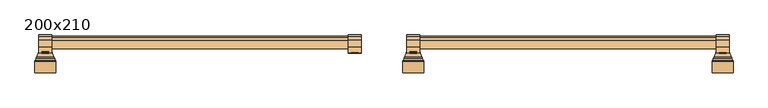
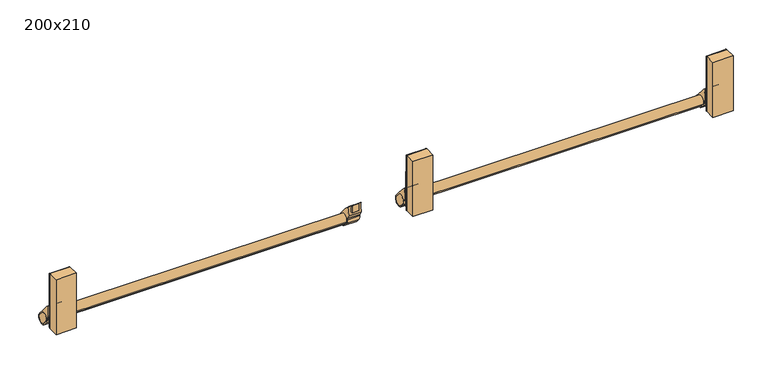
"""IFC4 building model written with IfcOpenShell, lengths in millimetres: door geometry, Porta Corta Fogo 2 Folhas : 200x210."""

from ifc_helpers import new_model, si_unit, point, frame, frame_2d, origin, place, context, project, spatial, polyline, circle_curve, ellipse_curve, trimmed, segment, composite_curve, outline, extrude, source, transform, mapped, element, save
from ifc_brep_helpers import plane_surface, cylinder_surface, revolved_surface, advanced_brep


def door_200x210_7cfe1a8b(model_context):
    return source(origin(), model_context, "Body", "SolidModel", [
        extrude(outline(composite_curve([segment(polyline([(39.4796414, 1074.8677377), (49.2193164, 1063.4599013)]), True, "CONTINUOUS"), segment(trimmed(circle_curve(frame_2d((40.0930473, 1055.6681613)), 12.0), [point((49.2193164, 1063.4599013))], [point((30.9667783, 1047.8764213))], False, "CARTESIAN"), True, "CONTINUOUS"), segment(polyline([(30.9667783, 1047.8764213), (21.2271032, 1059.2842576)]), True, "CONTINUOUS"), segment(trimmed(circle_curve(frame_2d((30.3533723, 1067.0759977)), 12.0), [point((21.2271032, 1059.2842576))], [point((39.4796414, 1074.8677377))], False, "CARTESIAN"), True, "CONTINUOUS")], self_intersect=False)), frame((60.5260959, 0.0, 0.0), z_axis=(1.0, 0.0, 0.0), x_axis=(0.0, 1.0, 0.0)), (0.0, 0.0, 1.0), 853.9575839),
        extrude(outline(composite_curve([segment(polyline([(10.1140216, 1093.2705185), (6.0, 1093.2705185), (6.0, 1113.7606116)]), True, "CONTINUOUS"), segment(trimmed(circle_curve(frame_2d((-43.4975797, 1040.4615919)), 88.4463492), [point((6.0, 1113.7606116))], [point((7.7856127, 1112.5226137))], False, "CARTESIAN"), True, "CONTINUOUS"), segment(trimmed(circle_curve(frame_2d((-15.0, 1100.0)), 26.0), [point((7.7856127, 1112.5226137))], [point((10.1140216, 1093.2705185))], False, "CARTESIAN"), True, "CONTINUOUS")], self_intersect=False)), frame((68.5007769, 0.0, 0.0), z_axis=(1.0, 0.0, 0.0), x_axis=(0.0, 1.0, 0.0)), (0.0, 0.0, 1.0), 17.9972202),
        extrude(outline(composite_curve([segment(trimmed(circle_curve(frame_2d((-43.4975797, 1040.4615919)), 88.4463492), [point((7.7856127, 1112.5226137))], [point((23.7678521, 1097.8908385))], False, "CARTESIAN"), True, "CONTINUOUS"), segment(polyline([(23.7678521, 1097.8908385), (41.7612086, 1076.8156727), (51.5008837, 1065.4078363)]), True, "CONTINUOUS"), segment(trimmed(circle_curve(frame_2d((40.0930473, 1055.6681613)), 15.0), [point((51.5008837, 1065.4078363))], [point((28.685211, 1045.9284863))], False, "CARTESIAN"), True, "CONTINUOUS"), segment(polyline([(28.685211, 1045.9284863), (18.9455359, 1057.3363226)]), True, "CONTINUOUS"), segment(trimmed(circle_curve(frame_2d((30.3533723, 1067.0759977)), 15.0), [point((18.9455359, 1057.3363226))], [point((15.637094, 1069.9796424))], False, "CARTESIAN"), True, "CONTINUOUS"), segment(trimmed(circle_curve(frame_2d((10.4264254, 1071.222644)), 5.3568759), [point((15.637094, 1069.9796424))], [point((14.8140734, 1074.2958614))], True, "CARTESIAN"), True, "CONTINUOUS"), segment(polyline([(14.8140734, 1074.2958614), (6.7684645, 1085.782618)]), True, "CONTINUOUS"), segment(trimmed(circle_curve(frame_2d((-15.0, 1100.0)), 26.0), [point((6.7684645, 1085.782618))], [point((7.7856127, 1112.5226137))], True, "CARTESIAN"), True, "CONTINUOUS")], self_intersect=False)), frame((60.5260959, 0.0, 0.0), z_axis=(1.0, 0.0, 0.0), x_axis=(0.0, 1.0, 0.0)), (0.0, 0.0, 1.0), 33.9521859),
        advanced_brep(
        [(50.898224, -12.2720654, 1066.751652), (104.101776, -12.2720654, 1066.751652), (104.6176732, -13.5344669, 1065.3823268), (105.0, -15.0, 1065.0), (50.0, -15.0, 1065.0), (50.3823268, -13.5344669, 1065.3823268), (52.787417, -7.6492062, 1074.8346794), (102.212583, -7.6492062, 1074.8346794), (53.8700503, -5.0, 1077.0871215), (101.1299497, -5.0, 1077.0871215), (60.0, 10.0, 1100.0), (54.5485718, -3.3396566, 1122.1141672), (100.4514282, -3.3396566, 1122.1141672), (95.0, 10.0, 1100.0), (67.5, 5.0, 1115.0), (67.5, 10.0, 1100.0), (67.5, 5.0, 1085.0), (87.5, 5.0, 1085.0), (87.5, 10.0, 1100.0), (87.5, 5.0, 1115.0), (53.0412037, -7.0281894, 1128.7172501), (101.9587963, -7.0281894, 1128.7172501), (51.0094072, -12.0, 1221.0), (103.9905928, -12.0, 1221.0), (50.3823268, -13.5344669, 1223.6176732), (50.0, -15.0, 1224.0), (105.0, -15.0, 1224.0), (104.6176732, -13.5344669, 1223.6176732), (105.0, -45.0, 1224.0), (50.0, -45.0, 1224.0), (50.0, -45.0, 1065.0), (105.0, -45.0, 1065.0)],
        [
            (0, 1),
            (1, 2, ellipse_curve(frame((105.2165828, -15.0, 1068.0), z_axis=(-0.9256856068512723, -0.37829374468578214, 0.0), x_axis=(0.3782937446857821, -0.9256856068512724, 0.0)), 3.2408411, 3.0)),
            (2, 3, ellipse_curve(frame((102.0, -15.0, 1068.0), z_axis=(-0.7071067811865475, 0.0, -0.7071067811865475), x_axis=(0.7071067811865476, 0.0, -0.7071067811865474)), 4.2426407, 3.0)),
            (3, 4),
            (4, 5, ellipse_curve(frame((53.0, -15.0, 1068.0), z_axis=(0.7071067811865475, 0.0, -0.7071067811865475), x_axis=(0.7071067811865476, 0.0, 0.7071067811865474)), 4.2426407, 3.0)),
            (5, 0, ellipse_curve(frame((49.7834172, -15.0, 1068.0), z_axis=(0.925685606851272, -0.3782937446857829, 0.0), x_axis=(0.3782937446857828, 0.925685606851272, 0.0)), 3.2408411, 3.0)),
            (0, 6),
            (6, 7),
            (7, 1),
            (6, 8, ellipse_curve(frame((54.6028184, -3.2069149, 1072.2940365), z_axis=(-0.925685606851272, 0.3782937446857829, 0.0), x_axis=(-0.3782937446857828, -0.925685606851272, 0.0)), 5.5283361, 5.1175012)),
            (8, 9),
            (9, 7, ellipse_curve(frame((100.3971816, -3.2069149, 1072.2940365), z_axis=(0.9256856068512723, 0.37829374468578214, 0.0), x_axis=(-0.3782937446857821, 0.9256856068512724, 0.0)), 5.5283361, 5.1175012)),
            (8, 10, ellipse_curve(frame((49.7834172, -15.0, 1100.0), z_axis=(0.925685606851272, -0.3782937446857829, 0.0), x_axis=(0.3782937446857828, 0.925685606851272, 0.0)), 27.0070095, 25.0)),
            (10, 11, ellipse_curve(frame((49.7834172, -15.0, 1100.0), z_axis=(0.925685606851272, -0.3782937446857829, 0.0), x_axis=(0.3782937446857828, 0.925685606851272, 0.0)), 27.0070095, 25.0)),
            (11, 12),
            (12, 13, ellipse_curve(frame((105.2165828, -15.0, 1100.0), z_axis=(-0.9256856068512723, -0.37829374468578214, 0.0), x_axis=(0.3782937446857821, -0.9256856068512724, 0.0)), 27.0070095, 25.0)),
            (13, 9, ellipse_curve(frame((105.2165828, -15.0, 1100.0), z_axis=(-0.9256856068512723, -0.37829374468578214, 0.0), x_axis=(0.3782937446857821, -0.9256856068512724, 0.0)), 27.0070095, 25.0)),
            (14, 15, circle_curve(frame((67.5, -15.0, 1100.0), z_axis=(-1.0, 0.0, 0.0), x_axis=(0.0, -1.0, 0.0)), 25.0)),
            (15, 16, circle_curve(frame((67.5, -15.0, 1100.0), z_axis=(-1.0, 0.0, 0.0), x_axis=(0.0, -1.0, 0.0)), 25.0)),
            (16, 17),
            (17, 18, circle_curve(frame((87.5, -15.0, 1100.0), z_axis=(1.0, 0.0, 0.0), x_axis=(0.0, -1.0, 0.0)), 25.0)),
            (18, 19, circle_curve(frame((87.5, -15.0, 1100.0), z_axis=(1.0, 0.0, 0.0), x_axis=(0.0, -1.0, 0.0)), 25.0)),
            (19, 14),
            (11, 20, ellipse_curve(frame((56.5484771, 1.554116, 1129.179629), z_axis=(-0.925685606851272, 0.3782937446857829, 0.0), x_axis=(-0.3782937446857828, -0.925685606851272, 0.0)), 9.2847419, 8.5947519)),
            (20, 21),
            (21, 12, ellipse_curve(frame((98.4515229, 1.554116, 1129.179629), z_axis=(0.9256856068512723, 0.37829374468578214, 0.0), x_axis=(-0.3782937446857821, 0.9256856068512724, 0.0)), 9.2847419, 8.5947519)),
            (20, 22),
            (22, 23),
            (23, 21),
            (22, 24, ellipse_curve(frame((49.7834172, -15.0, 1221.0), z_axis=(0.925685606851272, -0.3782937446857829, 0.0), x_axis=(0.3782937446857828, 0.925685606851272, 0.0)), 3.2408411, 3.0)),
            (24, 25, ellipse_curve(frame((53.0, -15.0, 1221.0), z_axis=(0.7071067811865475, 0.0, 0.7071067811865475), x_axis=(0.7071067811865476, 0.0, -0.7071067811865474)), 4.2426407, 3.0)),
            (25, 26),
            (26, 27, ellipse_curve(frame((102.0, -15.0, 1221.0), z_axis=(-0.7071067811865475, 0.0, 0.7071067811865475), x_axis=(0.7071067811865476, 0.0, 0.7071067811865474)), 4.2426407, 3.0)),
            (27, 23, ellipse_curve(frame((105.2165828, -15.0, 1221.0), z_axis=(-0.9256856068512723, -0.37829374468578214, 0.0), x_axis=(0.3782937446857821, -0.9256856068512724, 0.0)), 3.2408411, 3.0)),
            (24, 5),
            (4, 25),
            (27, 2),
            (26, 3),
            (14, 16),
            (19, 17),
            (28, 29),
            (29, 30),
            (30, 31),
            (31, 28),
            (28, 26),
            (25, 29),
            (4, 30),
            (3, 31),
        ],
        [
            cylinder_surface(frame((50.0, -15.0, 1068.0), z_axis=(1.0, 0.0, 0.0), x_axis=(0.0, -1.0, 0.0)), 3.0),
            plane_surface(frame((105.0, -12.2720654, 1066.751652), z_axis=(0.0, 0.8680586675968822, -0.496461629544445), x_axis=(-1.0, 0.0, 0.0))),
            revolved_surface(polyline([(52.5114834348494, -8.3244161, 1072.2940365), (102.48851656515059, -8.3244161, 1072.2940365)]), (50.0, -3.2069149, 1072.2940365), (-1.0, 0.0, 0.0)),
            cylinder_surface(frame((50.0, -15.0, 1100.0), z_axis=(1.0, 0.0, 0.0), x_axis=(0.0, -1.0, 0.0)), 25.0),
            revolved_surface(polyline([(53.03611731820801, -7.0406359, 1129.179629), (101.96388268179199, -7.0406359, 1129.179629)]), (50.0, 1.554116, 1129.179629), (-1.0, 0.0, 0.0)),
            plane_surface(frame((105.0, -7.0281894, 1128.7172501), z_axis=(0.0, 0.9985518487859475, 0.05379781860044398), x_axis=(-1.0, 0.0, 0.0))),
            cylinder_surface(frame((50.0, -15.0, 1221.0), z_axis=(1.0, 0.0, 0.0), x_axis=(0.0, -1.0, 0.0)), 3.0),
            cylinder_surface(frame((53.0, -15.0, 1059.1367409), z_axis=(0.0, 0.0, -1.0), x_axis=(1.0, 0.0, 0.0)), 3.0),
            plane_surface(frame((50.3823268, -13.5344669, 1234.0272103), z_axis=(-0.925685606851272, 0.3782937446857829, 0.0), x_axis=(0.0, 0.0, -1.0))),
            plane_surface(frame((95.0, 10.0, 1234.0272103), z_axis=(0.9256856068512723, 0.37829374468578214, 0.0), x_axis=(0.0, 0.0, -1.0))),
            cylinder_surface(frame((102.0, -15.0, 1100.0), z_axis=(0.0, 0.0, -1.0), x_axis=(1.0, 0.0, 0.0)), 3.0),
            plane_surface(frame((67.5, 10.0, 1146.08191), z_axis=(1.0, 0.0, 0.0), x_axis=(0.0, 0.0, -1.0))),
            plane_surface(frame((67.5, 5.0, 1146.08191), z_axis=(0.0, 1.0, 0.0), x_axis=(0.0, 0.0, -1.0))),
            plane_surface(frame((87.5, 5.0, 1146.08191), z_axis=(-1.0, 0.0, 0.0), x_axis=(0.0, 0.0, -1.0))),
            plane_surface(frame((-167.5, -45.0, 1224.0), z_axis=(0.0, -1.0, 0.0), x_axis=(-1.0, 0.0, 0.0))),
            plane_surface(frame((105.0, -45.0, 1224.0), z_axis=(0.0, 0.0, 1.0), x_axis=(0.0, 1.0, 0.0))),
            plane_surface(frame((50.0, -45.0, 1224.0), z_axis=(-1.0, 0.0, 0.0), x_axis=(0.0, 1.0, 0.0))),
            plane_surface(frame((50.0, -45.0, 1065.0), z_axis=(0.0, 0.0, -1.0), x_axis=(0.0, 1.0, 0.0))),
            plane_surface(frame((105.0, -45.0, 1065.0), z_axis=(1.0, 0.0, 0.0), x_axis=(0.0, 1.0, 0.0))),
        ],
        [
            (0, [[1, 2, 3, 4, 5, 6]]),
            (1, [[-1, 7, 8, 9]]),
            (2, [[-8, 10, 11, 12]]),
            (3, [[-11, 13, 14, 15, 16, 17], [18, 19, 20, 21, 22, 23]]),
            (4, [[-15, 24, 25, 26]]),
            (5, [[-25, 27, 28, 29]]),
            (6, [[-28, 30, 31, 32, 33, 34]]),
            (7, [[35, -5, 36, -31]]),
            (8, [[-35, -30, -27, -24, -14, -13, -10, -7, -6]]),
            (9, [[37, -2, -9, -12, -17, -16, -26, -29, -34]]),
            (10, [[-37, -33, 38, -3]]),
            (11, [[39, -19, -18]]),
            (12, [[-39, -23, 40, -20]]),
            (13, [[-40, -22, -21]]),
            (14, [[41, 42, 43, 44]]),
            (15, [[-41, 45, -32, 46]]),
            (16, [[-42, -46, -36, 47]]),
            (17, [[-43, -47, -4, 48]]),
            (18, [[-44, -48, -38, -45]]),
        ],
    ),
        advanced_brep(
        [(906.5007574, 7.7856127, 1112.5226137), (906.5007574, 6.0, 1113.7606116), (906.5007574, 6.0, 1093.2705185), (906.5007574, 10.1140216, 1093.2705185), (888.4977277, 10.1140216, 1093.2705185), (888.4977277, 6.0, 1093.2705185), (888.4977277, 6.0, 1113.7606116), (888.4977277, 7.7856127, 1112.5226137), (914.4836798, 7.7856127, 1112.5226137), (914.4836798, 6.7684645, 1085.782618), (914.4836798, 14.8140734, 1074.2958614), (914.4836798, 15.637094, 1069.9796424), (914.4836798, 18.9455359, 1057.3363226), (914.4836798, 28.685211, 1045.9284863), (914.4836798, 51.5008837, 1065.4078363), (914.4836798, 41.7612086, 1076.8156727), (914.4836798, 23.7678521, 1097.8908385), (880.5260959, 7.7856127, 1112.5226137), (880.5260959, 23.7678521, 1097.8908385), (880.5260959, 41.7612086, 1076.8156727), (880.5260959, 51.5008837, 1065.4078363), (880.5260959, 28.685211, 1045.9284863), (880.5260959, 18.9455359, 1057.3363226), (880.5260959, 15.637094, 1069.9796424), (880.5260959, 14.8140734, 1074.2958614), (880.5260959, 6.7684645, 1085.782618)],
        [
            (0, 1, circle_curve(frame((906.5007574, -43.4975797, 1040.4615919), z_axis=(1.0, 0.0, 0.0), x_axis=(0.0, 1.0, 0.0)), 88.4463492)),
            (1, 2),
            (2, 3),
            (3, 0, circle_curve(frame((906.5007574, -15.0, 1100.0), z_axis=(1.0, 0.0, 0.0), x_axis=(0.0, -1.0, 0.0)), 26.0)),
            (4, 5),
            (5, 6),
            (6, 7, circle_curve(frame((888.4977277, -43.4975797, 1040.4615919), z_axis=(-1.0, 0.0, 0.0), x_axis=(0.0, 1.0, 0.0)), 88.4463492)),
            (7, 4, circle_curve(frame((888.4977277, -15.0, 1100.0), z_axis=(-1.0, 0.0, 0.0), x_axis=(0.0, -1.0, 0.0)), 26.0)),
            (0, 7),
            (6, 1),
            (5, 2),
            (4, 3),
            (8, 9, circle_curve(frame((914.4836798, -15.0, 1100.0), z_axis=(-1.0, 0.0, 0.0), x_axis=(0.0, -1.0, 0.0)), 26.0)),
            (9, 10),
            (10, 11, circle_curve(frame((914.4836798, 10.4264254, 1071.222644), z_axis=(-1.0, 0.0, 0.0), x_axis=(0.0, -1.0, 0.0)), 5.3568759)),
            (11, 12, circle_curve(frame((914.4836798, 30.3533723, 1067.0759977), z_axis=(1.0, 0.0, 0.0), x_axis=(0.0, -1.0, 0.0)), 15.0)),
            (12, 13),
            (13, 14, circle_curve(frame((914.4836798, 40.0930473, 1055.6681613), z_axis=(1.0, 0.0, 0.0), x_axis=(0.0, -1.0, 0.0)), 15.0)),
            (14, 15),
            (15, 16),
            (16, 8, circle_curve(frame((914.4836798, -43.4975797, 1040.4615919), z_axis=(1.0, 0.0, 0.0), x_axis=(0.0, -1.0, 0.0)), 88.4463492)),
            (17, 18, circle_curve(frame((880.5260959, -43.4975797, 1040.4615919), z_axis=(-1.0, 0.0, 0.0), x_axis=(0.0, -1.0, 0.0)), 88.4463492)),
            (18, 19),
            (19, 20),
            (20, 21, circle_curve(frame((880.5260959, 40.0930473, 1055.6681613), z_axis=(-1.0, 0.0, 0.0), x_axis=(0.0, -1.0, 0.0)), 15.0)),
            (21, 22),
            (22, 23, circle_curve(frame((880.5260959, 30.3533723, 1067.0759977), z_axis=(-1.0, 0.0, 0.0), x_axis=(0.0, -1.0, 0.0)), 15.0)),
            (23, 24, circle_curve(frame((880.5260959, 10.4264254, 1071.222644), z_axis=(1.0, 0.0, 0.0), x_axis=(0.0, -1.0, 0.0)), 5.3568759)),
            (24, 25),
            (25, 17, circle_curve(frame((880.5260959, -15.0, 1100.0), z_axis=(1.0, 0.0, 0.0), x_axis=(0.0, -1.0, 0.0)), 26.0)),
            (8, 0),
            (7, 17),
            (25, 9),
            (24, 10),
            (23, 11),
            (22, 12),
            (21, 13),
            (20, 14),
            (19, 15),
            (18, 16),
        ],
        [
            plane_surface(frame((906.5007574, 11.0, 1100.0), z_axis=(1.0, 0.0, 0.0), x_axis=(0.0, 0.0, 1.0))),
            plane_surface(frame((888.4977277, 11.0, 1100.0), z_axis=(-1.0, 0.0, 0.0), x_axis=(0.0, 0.0, -1.0))),
            cylinder_surface(frame((888.4977277, -43.4975797, 1040.4615919), z_axis=(1.0, 0.0, 0.0), x_axis=(0.0, 1.0, 0.0)), 88.4463492),
            plane_surface(frame((906.5007574, 6.0, 1113.7606116), z_axis=(0.0, -1.0, 0.0), x_axis=(-1.0, 0.0, 0.0))),
            plane_surface(frame((906.5007574, 6.0, 1093.2705185), z_axis=(0.0, 0.0, -1.0), x_axis=(-1.0, 0.0, 0.0))),
            plane_surface(frame((914.4836798, -41.0, 1100.0), z_axis=(1.0, 0.0, 0.0), x_axis=(0.0, 0.0, 1.0))),
            plane_surface(frame((880.5260959, -41.0, 1100.0), z_axis=(-1.0, 0.0, 0.0), x_axis=(0.0, 0.0, -1.0))),
            revolved_surface(polyline([(880.5260959, -41.0, 1100.0), (914.4836798, -41.0, 1100.0)]), (880.5260959, -15.0, 1100.0), (-1.0, 0.0, 0.0)),
            plane_surface(frame((914.4836798, 6.7684645, 1085.782618), z_axis=(0.0, -0.8190684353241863, -0.5736958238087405), x_axis=(-1.0, 0.0, 0.0))),
            revolved_surface(polyline([(880.5260959, 5.069549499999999, 1071.222644), (914.4836798, 5.069549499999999, 1071.222644)]), (880.5260959, 10.4264254, 1071.222644), (-1.0, 0.0, 0.0)),
            cylinder_surface(frame((880.5260959, 30.3533723, 1067.0759977), z_axis=(1.0, 0.0, 0.0), x_axis=(0.0, -1.0, 0.0)), 15.0),
            plane_surface(frame((914.4836798, 18.9455359, 1057.3363226), z_axis=(0.0, -0.7605224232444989, -0.6493116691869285), x_axis=(-1.0, 0.0, 0.0))),
            cylinder_surface(frame((880.5260959, 40.0930473, 1055.6681613), z_axis=(1.0, 0.0, 0.0), x_axis=(0.0, -1.0, 0.0)), 15.0),
            plane_surface(frame((914.4836798, 51.5008837, 1065.4078363), z_axis=(0.0, 0.7605224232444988, 0.6493116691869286), x_axis=(-1.0, 0.0, 0.0))),
            plane_surface(frame((914.4836798, 41.7612086, 1076.8156727), z_axis=(0.0, 0.7605224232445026, 0.6493116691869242), x_axis=(-1.0, 0.0, 0.0))),
            cylinder_surface(frame((880.5260959, -43.4975797, 1040.4615919), z_axis=(1.0, 0.0, 0.0), x_axis=(0.0, -1.0, 0.0)), 88.4463492),
        ],
        [
            (0, [[1, 2, 3, 4]]),
            (1, [[5, 6, 7, 8]]),
            (2, [[-1, 9, -7, 10]]),
            (3, [[-2, -10, -6, 11]]),
            (4, [[-3, -11, -5, 12]]),
            (5, [[13, 14, 15, 16, 17, 18, 19, 20, 21]]),
            (6, [[22, 23, 24, 25, 26, 27, 28, 29, 30]]),
            (7, [[-13, 31, -4, -12, -8, 32, -30, 33]]),
            (8, [[-14, -33, -29, 34]]),
            (9, [[-15, -34, -28, 35]]),
            (10, [[-16, -35, -27, 36]]),
            (11, [[-17, -36, -26, 37]]),
            (12, [[-18, -37, -25, 38]]),
            (13, [[-19, -38, -24, 39]]),
            (14, [[-20, -39, -23, 40]]),
            (15, [[-21, -40, -22, -32, -9, -31]]),
        ],
    ),
        advanced_brep(
        [(870.898224, -12.2720654, 1066.751652), (924.101776, -12.2720654, 1066.751652), (924.6176732, -13.5344669, 1065.3823268), (925.0, -15.0, 1065.0), (870.0, -15.0, 1065.0), (870.3823268, -13.5344669, 1065.3823268), (872.787417, -7.6492062, 1074.8346794), (922.212583, -7.6492062, 1074.8346794), (873.8700503, -5.0, 1077.0871215), (921.1299497, -5.0, 1077.0871215), (880.0, 10.0, 1100.0), (874.5485718, -3.3396566, 1122.1141672), (920.4514282, -3.3396566, 1122.1141672), (915.0, 10.0, 1100.0), (887.5, 5.0, 1115.0), (887.5, 10.0, 1100.0), (887.5, 5.0, 1085.0), (907.5, 5.0, 1085.0), (907.5, 10.0, 1100.0), (907.5, 5.0, 1115.0), (873.0412037, -7.0281894, 1128.7172501), (921.9587963, -7.0281894, 1128.7172501), (871.0094072, -12.0, 1221.0), (923.9905928, -12.0, 1221.0), (870.3823268, -13.5344669, 1223.6176732), (870.0, -15.0, 1224.0), (925.0, -15.0, 1224.0), (924.6176732, -13.5344669, 1223.6176732), (925.0, -45.0, 1224.0), (870.0, -45.0, 1224.0), (870.0, -45.0, 1065.0), (925.0, -45.0, 1065.0)],
        [
            (0, 1),
            (1, 2, ellipse_curve(frame((925.2165828, -15.0, 1068.0), z_axis=(-0.9256856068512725, -0.37829374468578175, 0.0), x_axis=(0.37829374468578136, -0.9256856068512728, 0.0)), 3.2408411, 3.0)),
            (2, 3, ellipse_curve(frame((922.0, -15.0, 1068.0), z_axis=(-0.7071067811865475, 0.0, -0.7071067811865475), x_axis=(0.7071067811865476, 0.0, -0.7071067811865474)), 4.2426407, 3.0)),
            (3, 4),
            (4, 5, ellipse_curve(frame((873.0, -15.0, 1068.0), z_axis=(0.7071067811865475, 0.0, -0.7071067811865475), x_axis=(0.7071067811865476, 0.0, 0.7071067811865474)), 4.2426407, 3.0)),
            (5, 0, ellipse_curve(frame((869.7834172, -15.0, 1068.0), z_axis=(0.9256856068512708, -0.3782937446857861, 0.0), x_axis=(0.3782937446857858, 0.9256856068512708, 0.0)), 3.2408411, 3.0)),
            (0, 6),
            (6, 7),
            (7, 1),
            (6, 8, ellipse_curve(frame((874.6028184, -3.2069149, 1072.2940365), z_axis=(-0.9256856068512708, 0.3782937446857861, 0.0), x_axis=(-0.3782937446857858, -0.9256856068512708, 0.0)), 5.5283361, 5.1175012)),
            (8, 9),
            (9, 7, ellipse_curve(frame((920.3971816, -3.2069149, 1072.2940365), z_axis=(0.9256856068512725, 0.37829374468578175, 0.0), x_axis=(-0.37829374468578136, 0.9256856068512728, 0.0)), 5.5283361, 5.1175012)),
            (8, 10, ellipse_curve(frame((869.7834172, -15.0, 1100.0), z_axis=(0.9256856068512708, -0.3782937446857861, 0.0), x_axis=(0.3782937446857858, 0.9256856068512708, 0.0)), 27.0070095, 25.0)),
            (10, 11, ellipse_curve(frame((869.7834172, -15.0, 1100.0), z_axis=(0.9256856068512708, -0.3782937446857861, 0.0), x_axis=(0.3782937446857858, 0.9256856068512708, 0.0)), 27.0070095, 25.0)),
            (11, 12),
            (12, 13, ellipse_curve(frame((925.2165828, -15.0, 1100.0), z_axis=(-0.9256856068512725, -0.37829374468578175, 0.0), x_axis=(0.37829374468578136, -0.9256856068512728, 0.0)), 27.0070095, 25.0)),
            (13, 9, ellipse_curve(frame((925.2165828, -15.0, 1100.0), z_axis=(-0.9256856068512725, -0.37829374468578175, 0.0), x_axis=(0.37829374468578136, -0.9256856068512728, 0.0)), 27.0070095, 25.0)),
            (14, 15, circle_curve(frame((887.5, -15.0, 1100.0), z_axis=(-1.0, 0.0, 0.0), x_axis=(0.0, -1.0, 0.0)), 25.0)),
            (15, 16, circle_curve(frame((887.5, -15.0, 1100.0), z_axis=(-1.0, 0.0, 0.0), x_axis=(0.0, -1.0, 0.0)), 25.0)),
            (16, 17),
            (17, 18, circle_curve(frame((907.5, -15.0, 1100.0), z_axis=(1.0, 0.0, 0.0), x_axis=(0.0, -1.0, 0.0)), 25.0)),
            (18, 19, circle_curve(frame((907.5, -15.0, 1100.0), z_axis=(1.0, 0.0, 0.0), x_axis=(0.0, -1.0, 0.0)), 25.0)),
            (19, 14),
            (11, 20, ellipse_curve(frame((876.5484771, 1.554116, 1129.179629), z_axis=(-0.9256856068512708, 0.3782937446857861, 0.0), x_axis=(-0.3782937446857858, -0.9256856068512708, 0.0)), 9.2847419, 8.5947519)),
            (20, 21),
            (21, 12, ellipse_curve(frame((918.4515229, 1.554116, 1129.179629), z_axis=(0.9256856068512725, 0.37829374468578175, 0.0), x_axis=(-0.37829374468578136, 0.9256856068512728, 0.0)), 9.2847419, 8.5947519)),
            (20, 22),
            (22, 23),
            (23, 21),
            (22, 24, ellipse_curve(frame((869.7834172, -15.0, 1221.0), z_axis=(0.9256856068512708, -0.3782937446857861, 0.0), x_axis=(0.3782937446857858, 0.9256856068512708, 0.0)), 3.2408411, 3.0)),
            (24, 25, ellipse_curve(frame((873.0, -15.0, 1221.0), z_axis=(0.7071067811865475, 0.0, 0.7071067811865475), x_axis=(0.7071067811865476, 0.0, -0.7071067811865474)), 4.2426407, 3.0)),
            (25, 26),
            (26, 27, ellipse_curve(frame((922.0, -15.0, 1221.0), z_axis=(-0.7071067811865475, 0.0, 0.7071067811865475), x_axis=(0.7071067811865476, 0.0, 0.7071067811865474)), 4.2426407, 3.0)),
            (27, 23, ellipse_curve(frame((925.2165828, -15.0, 1221.0), z_axis=(-0.9256856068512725, -0.37829374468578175, 0.0), x_axis=(0.37829374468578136, -0.9256856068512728, 0.0)), 3.2408411, 3.0)),
            (24, 5),
            (4, 25),
            (27, 2),
            (26, 3),
            (28, 29),
            (29, 30),
            (30, 31),
            (31, 28),
            (28, 26),
            (25, 29),
            (4, 30),
            (3, 31),
            (14, 16),
            (19, 17),
        ],
        [
            cylinder_surface(frame((870.0, -15.0, 1068.0), z_axis=(1.0, 0.0, 0.0), x_axis=(0.0, -1.0, 0.0)), 3.0),
            plane_surface(frame((925.0, -12.2720654, 1066.751652), z_axis=(0.0, 0.8680586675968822, -0.496461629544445), x_axis=(-1.0, 0.0, 0.0))),
            revolved_surface(polyline([(872.5114834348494, -8.3244161, 1072.2940365), (922.4885165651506, -8.3244161, 1072.2940365)]), (870.0, -3.2069149, 1072.2940365), (-1.0, 0.0, 0.0)),
            cylinder_surface(frame((870.0, -15.0, 1100.0), z_axis=(1.0, 0.0, 0.0), x_axis=(0.0, -1.0, 0.0)), 25.0),
            revolved_surface(polyline([(873.036117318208, -7.0406359, 1129.179629), (921.9638826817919, -7.0406359, 1129.179629)]), (870.0, 1.554116, 1129.179629), (-1.0, 0.0, 0.0)),
            plane_surface(frame((925.0, -7.0281894, 1128.7172501), z_axis=(0.0, 0.9985518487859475, 0.05379781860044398), x_axis=(-1.0, 0.0, 0.0))),
            cylinder_surface(frame((870.0, -15.0, 1221.0), z_axis=(1.0, 0.0, 0.0), x_axis=(0.0, -1.0, 0.0)), 3.0),
            cylinder_surface(frame((873.0, -15.0, 1059.1367409), z_axis=(0.0, 0.0, -1.0), x_axis=(1.0, 0.0, 0.0)), 3.0),
            plane_surface(frame((870.3823268, -13.5344669, 1234.0272103), z_axis=(-0.9256856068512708, 0.3782937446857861, 0.0), x_axis=(0.0, 0.0, -1.0))),
            plane_surface(frame((915.0, 10.0, 1234.0272103), z_axis=(0.9256856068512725, 0.37829374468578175, 0.0), x_axis=(0.0, 0.0, -1.0))),
            cylinder_surface(frame((922.0, -15.0, 1100.0), z_axis=(0.0, 0.0, -1.0), x_axis=(1.0, 0.0, 0.0)), 3.0),
            plane_surface(frame((925.0, -45.0, 1224.0), z_axis=(0.0, -1.0, 0.0), x_axis=(-1.0, 0.0, 0.0))),
            plane_surface(frame((925.0, -45.0, 1224.0), z_axis=(0.0, 0.0, 1.0), x_axis=(0.0, 1.0, 0.0))),
            plane_surface(frame((870.0, -45.0, 1224.0), z_axis=(-1.0, 0.0, 0.0), x_axis=(0.0, 1.0, 0.0))),
            plane_surface(frame((870.0, -45.0, 1065.0), z_axis=(0.0, 0.0, -1.0), x_axis=(0.0, 1.0, 0.0))),
            plane_surface(frame((925.0, -45.0, 1065.0), z_axis=(1.0, 0.0, 0.0), x_axis=(0.0, 1.0, 0.0))),
            plane_surface(frame((887.5, 10.0, 1135.4621864), z_axis=(1.0, 0.0, 0.0), x_axis=(0.0, 0.0, -1.0))),
            plane_surface(frame((887.5, 5.0, 1135.4621864), z_axis=(0.0, 1.0, 0.0), x_axis=(0.0, 0.0, -1.0))),
            plane_surface(frame((907.5, 5.0, 1135.4621864), z_axis=(-1.0, 0.0, 0.0), x_axis=(0.0, 0.0, -1.0))),
        ],
        [
            (0, [[1, 2, 3, 4, 5, 6]]),
            (1, [[-1, 7, 8, 9]]),
            (2, [[-8, 10, 11, 12]]),
            (3, [[-11, 13, 14, 15, 16, 17], [18, 19, 20, 21, 22, 23]]),
            (4, [[-15, 24, 25, 26]]),
            (5, [[-25, 27, 28, 29]]),
            (6, [[-28, 30, 31, 32, 33, 34]]),
            (7, [[35, -5, 36, -31]]),
            (8, [[-35, -30, -27, -24, -14, -13, -10, -7, -6]]),
            (9, [[37, -2, -9, -12, -17, -16, -26, -29, -34]]),
            (10, [[-37, -33, 38, -3]]),
            (11, [[39, 40, 41, 42]]),
            (12, [[-39, 43, -32, 44]]),
            (13, [[-40, -44, -36, 45]]),
            (14, [[-41, -45, -4, 46]]),
            (15, [[-42, -46, -38, -43]]),
            (16, [[47, -19, -18]]),
            (17, [[-47, -23, 48, -20]]),
            (18, [[-48, -22, -21]]),
        ],
    ),
        extrude(outline(composite_curve([segment(polyline([(39.4796414, 1074.8677377), (49.2193164, 1063.4599013)]), True, "CONTINUOUS"), segment(trimmed(circle_curve(frame_2d((40.0930473, 1055.6681613)), 12.0), [point((49.2193164, 1063.4599013))], [point((30.9667783, 1047.8764213))], False, "CARTESIAN"), True, "CONTINUOUS"), segment(polyline([(30.9667783, 1047.8764213), (21.2271032, 1059.2842576)]), True, "CONTINUOUS"), segment(trimmed(circle_curve(frame_2d((30.3533723, 1067.0759977)), 12.0), [point((21.2271032, 1059.2842576))], [point((39.4796414, 1074.8677377))], False, "CARTESIAN"), True, "CONTINUOUS")], self_intersect=False)), frame((-914.4739041, 0.0, 0.0), z_axis=(1.0, 0.0, 0.0), x_axis=(0.0, 1.0, 0.0)), (0.0, 0.0, 1.0), 853.9575839),
        extrude(outline(composite_curve([segment(polyline([(10.1140216, 1093.2705185), (6.0, 1093.2705185), (6.0, 1113.7606116)]), True, "CONTINUOUS"), segment(trimmed(circle_curve(frame_2d((-43.4975797, 1040.4615919)), 88.4463492), [point((6.0, 1113.7606116))], [point((7.7856127, 1112.5226137))], False, "CARTESIAN"), True, "CONTINUOUS"), segment(trimmed(circle_curve(frame_2d((-15.0, 1100.0)), 26.0), [point((7.7856127, 1112.5226137))], [point((10.1140216, 1093.2705185))], False, "CARTESIAN"), True, "CONTINUOUS")], self_intersect=False)), frame((-906.4992231, 0.0, 0.0), z_axis=(1.0, 0.0, 0.0), x_axis=(0.0, 1.0, 0.0)), (0.0, 0.0, 1.0), 17.9972202),
        extrude(outline(composite_curve([segment(trimmed(circle_curve(frame_2d((-43.4975797, 1040.4615919)), 88.4463492), [point((7.7856127, 1112.5226137))], [point((23.7678521, 1097.8908385))], False, "CARTESIAN"), True, "CONTINUOUS"), segment(polyline([(23.7678521, 1097.8908385), (41.7612086, 1076.8156727), (51.5008837, 1065.4078363)]), True, "CONTINUOUS"), segment(trimmed(circle_curve(frame_2d((40.0930473, 1055.6681613)), 15.0), [point((51.5008837, 1065.4078363))], [point((28.685211, 1045.9284863))], False, "CARTESIAN"), True, "CONTINUOUS"), segment(polyline([(28.685211, 1045.9284863), (18.9455359, 1057.3363226)]), True, "CONTINUOUS"), segment(trimmed(circle_curve(frame_2d((30.3533723, 1067.0759977)), 15.0), [point((18.9455359, 1057.3363226))], [point((15.637094, 1069.9796424))], False, "CARTESIAN"), True, "CONTINUOUS"), segment(trimmed(circle_curve(frame_2d((10.4264254, 1071.222644)), 5.3568759), [point((15.637094, 1069.9796424))], [point((14.8140734, 1074.2958614))], True, "CARTESIAN"), True, "CONTINUOUS"), segment(polyline([(14.8140734, 1074.2958614), (6.7684645, 1085.782618)]), True, "CONTINUOUS"), segment(trimmed(circle_curve(frame_2d((-15.0, 1100.0)), 26.0), [point((6.7684645, 1085.782618))], [point((7.7856127, 1112.5226137))], True, "CARTESIAN"), True, "CONTINUOUS")], self_intersect=False)), frame((-914.4739041, 0.0, 0.0), z_axis=(1.0, 0.0, 0.0), x_axis=(0.0, 1.0, 0.0)), (0.0, 0.0, 1.0), 33.9521859),
        advanced_brep(
        [(-924.101776, -12.2720654, 1066.751652), (-870.898224, -12.2720654, 1066.751652), (-870.3823268, -13.5344669, 1065.3823268), (-870.0, -15.0, 1065.0), (-925.0, -15.0, 1065.0), (-924.6176732, -13.5344669, 1065.3823268), (-922.212583, -7.6492062, 1074.8346794), (-872.787417, -7.6492062, 1074.8346794), (-921.1299497, -5.0, 1077.0871215), (-873.8700503, -5.0, 1077.0871215), (-915.0, 10.0, 1100.0), (-920.4514282, -3.3396566, 1122.1141672), (-874.5485718, -3.3396566, 1122.1141672), (-880.0, 10.0, 1100.0), (-907.5, 5.0, 1115.0), (-907.5, 10.0, 1100.0), (-907.5, 5.0, 1085.0), (-887.5, 5.0, 1085.0), (-887.5, 10.0, 1100.0), (-887.5, 5.0, 1115.0), (-921.9587963, -7.0281894, 1128.7172501), (-873.0412037, -7.0281894, 1128.7172501), (-923.9905928, -12.0, 1221.0), (-871.0094072, -12.0, 1221.0), (-924.6176732, -13.5344669, 1223.6176732), (-925.0, -15.0, 1224.0), (-870.0, -15.0, 1224.0), (-870.3823268, -13.5344669, 1223.6176732), (-870.0, -45.0, 1224.0), (-925.0, -45.0, 1224.0), (-925.0, -45.0, 1065.0), (-870.0, -45.0, 1065.0)],
        [
            (0, 1),
            (1, 2, ellipse_curve(frame((-869.7834172, -15.0, 1068.0), z_axis=(-0.9256856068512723, -0.37829374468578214, 0.0), x_axis=(0.3782937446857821, -0.9256856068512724, 0.0)), 3.2408411, 3.0)),
            (2, 3, ellipse_curve(frame((-873.0, -15.0, 1068.0), z_axis=(-0.7071067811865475, 0.0, -0.7071067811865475), x_axis=(0.7071067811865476, 0.0, -0.7071067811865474)), 4.2426407, 3.0)),
            (3, 4),
            (4, 5, ellipse_curve(frame((-922.0, -15.0, 1068.0), z_axis=(0.7071067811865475, 0.0, -0.7071067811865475), x_axis=(0.7071067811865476, 0.0, 0.7071067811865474)), 4.2426407, 3.0)),
            (5, 0, ellipse_curve(frame((-925.2165828, -15.0, 1068.0), z_axis=(0.925685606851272, -0.3782937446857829, 0.0), x_axis=(0.3782937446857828, 0.925685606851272, 0.0)), 3.2408411, 3.0)),
            (0, 6),
            (6, 7),
            (7, 1),
            (6, 8, ellipse_curve(frame((-920.3971816, -3.2069149, 1072.2940365), z_axis=(-0.925685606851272, 0.3782937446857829, 0.0), x_axis=(-0.3782937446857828, -0.925685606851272, 0.0)), 5.5283361, 5.1175012)),
            (8, 9),
            (9, 7, ellipse_curve(frame((-874.6028184, -3.2069149, 1072.2940365), z_axis=(0.9256856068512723, 0.37829374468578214, 0.0), x_axis=(-0.3782937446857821, 0.9256856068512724, 0.0)), 5.5283361, 5.1175012)),
            (8, 10, ellipse_curve(frame((-925.2165828, -15.0, 1100.0), z_axis=(0.925685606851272, -0.3782937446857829, 0.0), x_axis=(0.3782937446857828, 0.925685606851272, 0.0)), 27.0070095, 25.0)),
            (10, 11, ellipse_curve(frame((-925.2165828, -15.0, 1100.0), z_axis=(0.925685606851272, -0.3782937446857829, 0.0), x_axis=(0.3782937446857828, 0.925685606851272, 0.0)), 27.0070095, 25.0)),
            (11, 12),
            (12, 13, ellipse_curve(frame((-869.7834172, -15.0, 1100.0), z_axis=(-0.9256856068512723, -0.37829374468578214, 0.0), x_axis=(0.3782937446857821, -0.9256856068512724, 0.0)), 27.0070095, 25.0)),
            (13, 9, ellipse_curve(frame((-869.7834172, -15.0, 1100.0), z_axis=(-0.9256856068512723, -0.37829374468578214, 0.0), x_axis=(0.3782937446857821, -0.9256856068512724, 0.0)), 27.0070095, 25.0)),
            (14, 15, circle_curve(frame((-907.5, -15.0, 1100.0), z_axis=(-1.0, 0.0, 0.0), x_axis=(0.0, -1.0, 0.0)), 25.0)),
            (15, 16, circle_curve(frame((-907.5, -15.0, 1100.0), z_axis=(-1.0, 0.0, 0.0), x_axis=(0.0, -1.0, 0.0)), 25.0)),
            (16, 17),
            (17, 18, circle_curve(frame((-887.5, -15.0, 1100.0), z_axis=(1.0, 0.0, 0.0), x_axis=(0.0, -1.0, 0.0)), 25.0)),
            (18, 19, circle_curve(frame((-887.5, -15.0, 1100.0), z_axis=(1.0, 0.0, 0.0), x_axis=(0.0, -1.0, 0.0)), 25.0)),
            (19, 14),
            (11, 20, ellipse_curve(frame((-918.4515229, 1.554116, 1129.179629), z_axis=(-0.925685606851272, 0.3782937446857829, 0.0), x_axis=(-0.3782937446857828, -0.925685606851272, 0.0)), 9.2847419, 8.5947519)),
            (20, 21),
            (21, 12, ellipse_curve(frame((-876.5484771, 1.554116, 1129.179629), z_axis=(0.9256856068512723, 0.37829374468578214, 0.0), x_axis=(-0.3782937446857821, 0.9256856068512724, 0.0)), 9.2847419, 8.5947519)),
            (20, 22),
            (22, 23),
            (23, 21),
            (22, 24, ellipse_curve(frame((-925.2165828, -15.0, 1221.0), z_axis=(0.925685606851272, -0.3782937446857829, 0.0), x_axis=(0.3782937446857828, 0.925685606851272, 0.0)), 3.2408411, 3.0)),
            (24, 25, ellipse_curve(frame((-922.0, -15.0, 1221.0), z_axis=(0.7071067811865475, 0.0, 0.7071067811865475), x_axis=(0.7071067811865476, 0.0, -0.7071067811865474)), 4.2426407, 3.0)),
            (25, 26),
            (26, 27, ellipse_curve(frame((-873.0, -15.0, 1221.0), z_axis=(-0.7071067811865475, 0.0, 0.7071067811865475), x_axis=(0.7071067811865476, 0.0, 0.7071067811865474)), 4.2426407, 3.0)),
            (27, 23, ellipse_curve(frame((-869.7834172, -15.0, 1221.0), z_axis=(-0.9256856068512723, -0.37829374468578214, 0.0), x_axis=(0.3782937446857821, -0.9256856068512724, 0.0)), 3.2408411, 3.0)),
            (24, 5),
            (4, 25),
            (27, 2),
            (26, 3),
            (14, 16),
            (19, 17),
            (28, 29),
            (29, 30),
            (30, 31),
            (31, 28),
            (28, 26),
            (25, 29),
            (4, 30),
            (3, 31),
        ],
        [
            cylinder_surface(frame((-925.0, -15.0, 1068.0), z_axis=(1.0, 0.0, 0.0), x_axis=(0.0, -1.0, 0.0)), 3.0),
            plane_surface(frame((-870.0, -12.2720654, 1066.751652), z_axis=(0.0, 0.8680586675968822, -0.496461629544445), x_axis=(-1.0, 0.0, 0.0))),
            revolved_surface(polyline([(-922.4885165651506, -8.3244161, 1072.2940365), (-872.5114834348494, -8.3244161, 1072.2940365)]), (-925.0, -3.2069149, 1072.2940365), (-1.0, 0.0, 0.0)),
            cylinder_surface(frame((-925.0, -15.0, 1100.0), z_axis=(1.0, 0.0, 0.0), x_axis=(0.0, -1.0, 0.0)), 25.0),
            revolved_surface(polyline([(-921.963882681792, -7.0406359, 1129.179629), (-873.036117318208, -7.0406359, 1129.179629)]), (-925.0, 1.554116, 1129.179629), (-1.0, 0.0, 0.0)),
            plane_surface(frame((-870.0, -7.0281894, 1128.7172501), z_axis=(0.0, 0.9985518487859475, 0.05379781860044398), x_axis=(-1.0, 0.0, 0.0))),
            cylinder_surface(frame((-925.0, -15.0, 1221.0), z_axis=(1.0, 0.0, 0.0), x_axis=(0.0, -1.0, 0.0)), 3.0),
            cylinder_surface(frame((-922.0, -15.0, 1059.1367409), z_axis=(0.0, 0.0, -1.0), x_axis=(1.0, 0.0, 0.0)), 3.0),
            plane_surface(frame((-924.6176732, -13.5344669, 1234.0272103), z_axis=(-0.925685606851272, 0.3782937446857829, 0.0), x_axis=(0.0, 0.0, -1.0))),
            plane_surface(frame((-880.0, 10.0, 1234.0272103), z_axis=(0.9256856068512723, 0.37829374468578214, 0.0), x_axis=(0.0, 0.0, -1.0))),
            cylinder_surface(frame((-873.0, -15.0, 1100.0), z_axis=(0.0, 0.0, -1.0), x_axis=(1.0, 0.0, 0.0)), 3.0),
            plane_surface(frame((-907.5, 10.0, 1146.08191), z_axis=(1.0, 0.0, 0.0), x_axis=(0.0, 0.0, -1.0))),
            plane_surface(frame((-907.5, 5.0, 1146.08191), z_axis=(0.0, 1.0, 0.0), x_axis=(0.0, 0.0, -1.0))),
            plane_surface(frame((-887.5, 5.0, 1146.08191), z_axis=(-1.0, 0.0, 0.0), x_axis=(0.0, 0.0, -1.0))),
            plane_surface(frame((-1142.5, -45.0, 1224.0), z_axis=(0.0, -1.0, 0.0), x_axis=(-1.0, 0.0, 0.0))),
            plane_surface(frame((-870.0, -45.0, 1224.0), z_axis=(0.0, 0.0, 1.0), x_axis=(0.0, 1.0, 0.0))),
            plane_surface(frame((-925.0, -45.0, 1224.0), z_axis=(-1.0, 0.0, 0.0), x_axis=(0.0, 1.0, 0.0))),
            plane_surface(frame((-925.0, -45.0, 1065.0), z_axis=(0.0, 0.0, -1.0), x_axis=(0.0, 1.0, 0.0))),
            plane_surface(frame((-870.0, -45.0, 1065.0), z_axis=(1.0, 0.0, 0.0), x_axis=(0.0, 1.0, 0.0))),
        ],
        [
            (0, [[1, 2, 3, 4, 5, 6]]),
            (1, [[-1, 7, 8, 9]]),
            (2, [[-8, 10, 11, 12]]),
            (3, [[-11, 13, 14, 15, 16, 17], [18, 19, 20, 21, 22, 23]]),
            (4, [[-15, 24, 25, 26]]),
            (5, [[-25, 27, 28, 29]]),
            (6, [[-28, 30, 31, 32, 33, 34]]),
            (7, [[35, -5, 36, -31]]),
            (8, [[-35, -30, -27, -24, -14, -13, -10, -7, -6]]),
            (9, [[37, -2, -9, -12, -17, -16, -26, -29, -34]]),
            (10, [[-37, -33, 38, -3]]),
            (11, [[39, -19, -18]]),
            (12, [[-39, -23, 40, -20]]),
            (13, [[-40, -22, -21]]),
            (14, [[41, 42, 43, 44]]),
            (15, [[-41, 45, -32, 46]]),
            (16, [[-42, -46, -36, 47]]),
            (17, [[-43, -47, -4, 48]]),
            (18, [[-44, -48, -38, -45]]),
        ],
    ),
        advanced_brep(
        [(-68.4992426, 7.7856127, 1112.5226137), (-68.4992426, 6.0, 1113.7606116), (-68.4992426, 6.0, 1093.2705185), (-68.4992426, 10.1140216, 1093.2705185), (-86.5022723, 10.1140216, 1093.2705185), (-86.5022723, 6.0, 1093.2705185), (-86.5022723, 6.0, 1113.7606116), (-86.5022723, 7.7856127, 1112.5226137), (-60.5163202, 7.7856127, 1112.5226137), (-60.5163202, 6.7684645, 1085.782618), (-60.5163202, 14.8140734, 1074.2958614), (-60.5163202, 15.637094, 1069.9796424), (-60.5163202, 18.9455359, 1057.3363226), (-60.5163202, 28.685211, 1045.9284863), (-60.5163202, 51.5008837, 1065.4078363), (-60.5163202, 41.7612086, 1076.8156727), (-60.5163202, 23.7678521, 1097.8908385), (-94.4739041, 7.7856127, 1112.5226137), (-94.4739041, 23.7678521, 1097.8908385), (-94.4739041, 41.7612086, 1076.8156727), (-94.4739041, 51.5008837, 1065.4078363), (-94.4739041, 28.685211, 1045.9284863), (-94.4739041, 18.9455359, 1057.3363226), (-94.4739041, 15.637094, 1069.9796424), (-94.4739041, 14.8140734, 1074.2958614), (-94.4739041, 6.7684645, 1085.782618)],
        [
            (0, 1, circle_curve(frame((-68.4992426, -43.4975797, 1040.4615919), z_axis=(1.0, 0.0, 0.0), x_axis=(0.0, 1.0, 0.0)), 88.4463492)),
            (1, 2),
            (2, 3),
            (3, 0, circle_curve(frame((-68.4992426, -15.0, 1100.0), z_axis=(1.0, 0.0, 0.0), x_axis=(0.0, -1.0, 0.0)), 26.0)),
            (4, 5),
            (5, 6),
            (6, 7, circle_curve(frame((-86.5022723, -43.4975797, 1040.4615919), z_axis=(-1.0, 0.0, 0.0), x_axis=(0.0, 1.0, 0.0)), 88.4463492)),
            (7, 4, circle_curve(frame((-86.5022723, -15.0, 1100.0), z_axis=(-1.0, 0.0, 0.0), x_axis=(0.0, -1.0, 0.0)), 26.0)),
            (0, 7),
            (6, 1),
            (5, 2),
            (4, 3),
            (8, 9, circle_curve(frame((-60.5163202, -15.0, 1100.0), z_axis=(-1.0, 0.0, 0.0), x_axis=(0.0, -1.0, 0.0)), 26.0)),
            (9, 10),
            (10, 11, circle_curve(frame((-60.5163202, 10.4264254, 1071.222644), z_axis=(-1.0, 0.0, 0.0), x_axis=(0.0, -1.0, 0.0)), 5.3568759)),
            (11, 12, circle_curve(frame((-60.5163202, 30.3533723, 1067.0759977), z_axis=(1.0, 0.0, 0.0), x_axis=(0.0, -1.0, 0.0)), 15.0)),
            (12, 13),
            (13, 14, circle_curve(frame((-60.5163202, 40.0930473, 1055.6681613), z_axis=(1.0, 0.0, 0.0), x_axis=(0.0, -1.0, 0.0)), 15.0)),
            (14, 15),
            (15, 16),
            (16, 8, circle_curve(frame((-60.5163202, -43.4975797, 1040.4615919), z_axis=(1.0, 0.0, 0.0), x_axis=(0.0, -1.0, 0.0)), 88.4463492)),
            (17, 18, circle_curve(frame((-94.4739041, -43.4975797, 1040.4615919), z_axis=(-1.0, 0.0, 0.0), x_axis=(0.0, -1.0, 0.0)), 88.4463492)),
            (18, 19),
            (19, 20),
            (20, 21, circle_curve(frame((-94.4739041, 40.0930473, 1055.6681613), z_axis=(-1.0, 0.0, 0.0), x_axis=(0.0, -1.0, 0.0)), 15.0)),
            (21, 22),
            (22, 23, circle_curve(frame((-94.4739041, 30.3533723, 1067.0759977), z_axis=(-1.0, 0.0, 0.0), x_axis=(0.0, -1.0, 0.0)), 15.0)),
            (23, 24, circle_curve(frame((-94.4739041, 10.4264254, 1071.222644), z_axis=(1.0, 0.0, 0.0), x_axis=(0.0, -1.0, 0.0)), 5.3568759)),
            (24, 25),
            (25, 17, circle_curve(frame((-94.4739041, -15.0, 1100.0), z_axis=(1.0, 0.0, 0.0), x_axis=(0.0, -1.0, 0.0)), 26.0)),
            (8, 0),
            (7, 17),
            (25, 9),
            (24, 10),
            (23, 11),
            (22, 12),
            (21, 13),
            (20, 14),
            (19, 15),
            (18, 16),
        ],
        [
            plane_surface(frame((-68.4992426, 11.0, 1100.0), z_axis=(1.0, 0.0, 0.0), x_axis=(0.0, 0.0, 1.0))),
            plane_surface(frame((-86.5022723, 11.0, 1100.0), z_axis=(-1.0, 0.0, 0.0), x_axis=(0.0, 0.0, -1.0))),
            cylinder_surface(frame((-86.5022723, -43.4975797, 1040.4615919), z_axis=(1.0, 0.0, 0.0), x_axis=(0.0, 1.0, 0.0)), 88.4463492),
            plane_surface(frame((-68.4992426, 6.0, 1113.7606116), z_axis=(0.0, -1.0, 0.0), x_axis=(-1.0, 0.0, 0.0))),
            plane_surface(frame((-68.4992426, 6.0, 1093.2705185), z_axis=(0.0, 0.0, -1.0), x_axis=(-1.0, 0.0, 0.0))),
            plane_surface(frame((-60.5163202, -41.0, 1100.0), z_axis=(1.0, 0.0, 0.0), x_axis=(0.0, 0.0, 1.0))),
            plane_surface(frame((-94.4739041, -41.0, 1100.0), z_axis=(-1.0, 0.0, 0.0), x_axis=(0.0, 0.0, -1.0))),
            revolved_surface(polyline([(-94.4739041, -41.0, 1100.0), (-60.5163202, -41.0, 1100.0)]), (-94.4739041, -15.0, 1100.0), (-1.0, 0.0, 0.0)),
            plane_surface(frame((-60.5163202, 6.7684645, 1085.782618), z_axis=(0.0, -0.8190684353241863, -0.5736958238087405), x_axis=(-1.0, 0.0, 0.0))),
            revolved_surface(polyline([(-94.4739041, 5.069549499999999, 1071.222644), (-60.5163202, 5.069549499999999, 1071.222644)]), (-94.4739041, 10.4264254, 1071.222644), (-1.0, 0.0, 0.0)),
            cylinder_surface(frame((-94.4739041, 30.3533723, 1067.0759977), z_axis=(1.0, 0.0, 0.0), x_axis=(0.0, -1.0, 0.0)), 15.0),
            plane_surface(frame((-60.5163202, 18.9455359, 1057.3363226), z_axis=(0.0, -0.7605224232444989, -0.6493116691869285), x_axis=(-1.0, 0.0, 0.0))),
            cylinder_surface(frame((-94.4739041, 40.0930473, 1055.6681613), z_axis=(1.0, 0.0, 0.0), x_axis=(0.0, -1.0, 0.0)), 15.0),
            plane_surface(frame((-60.5163202, 51.5008837, 1065.4078363), z_axis=(0.0, 0.7605224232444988, 0.6493116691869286), x_axis=(-1.0, 0.0, 0.0))),
            plane_surface(frame((-60.5163202, 41.7612086, 1076.8156727), z_axis=(0.0, 0.7605224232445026, 0.6493116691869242), x_axis=(-1.0, 0.0, 0.0))),
            cylinder_surface(frame((-94.4739041, -43.4975797, 1040.4615919), z_axis=(1.0, 0.0, 0.0), x_axis=(0.0, -1.0, 0.0)), 88.4463492),
        ],
        [
            (0, [[1, 2, 3, 4]]),
            (1, [[5, 6, 7, 8]]),
            (2, [[-1, 9, -7, 10]]),
            (3, [[-2, -10, -6, 11]]),
            (4, [[-3, -11, -5, 12]]),
            (5, [[13, 14, 15, 16, 17, 18, 19, 20, 21]]),
            (6, [[22, 23, 24, 25, 26, 27, 28, 29, 30]]),
            (7, [[-13, 31, -4, -12, -8, 32, -30, 33]]),
            (8, [[-14, -33, -29, 34]]),
            (9, [[-15, -34, -28, 35]]),
            (10, [[-16, -35, -27, 36]]),
            (11, [[-17, -36, -26, 37]]),
            (12, [[-18, -37, -25, 38]]),
            (13, [[-19, -38, -24, 39]]),
            (14, [[-20, -39, -23, 40]]),
            (15, [[-21, -40, -22, -32, -9, -31]]),
        ],
    ),
    ])


if __name__ == "__main__":
    model = new_model("IFC4")
    model_context = context("Model", 3, world=origin())
    ifc_project = project(units=[si_unit("LENGTHUNIT", "METRE", prefix="MILLI")], contexts=[model_context])
    site = spatial("IfcSite", under=ifc_project)
    building = spatial("IfcBuilding", under=site)
    placement = place(None, origin())
    door_200x210_shape = door_200x210_7cfe1a8b(model_context)
    element("IfcDoor", 1, ObjectType="Porta Corta Fogo 2 Folhas : 200x210", at=placement, inside=building, context=model_context, shape_type="MappedRepresentation", body=[
        mapped(door_200x210_shape, transform((0.0, 0.0, 0.0), x_axis=(1.0, 0.0, 0.0), y_axis=(0.0, 1.0, 0.0), z_axis=(0.0, 0.0, 1.0))),
    ])
    save(model, "model.ifc")
